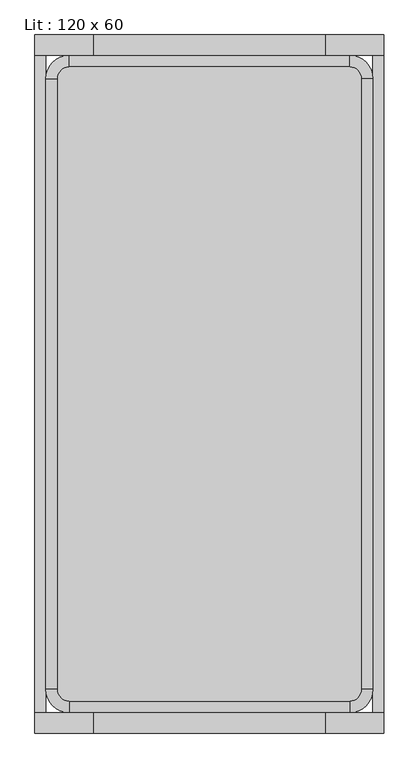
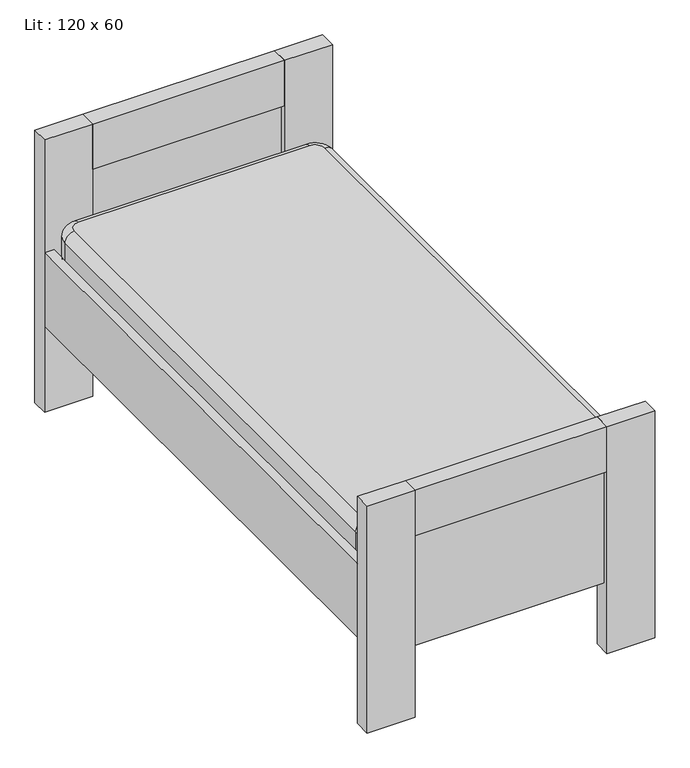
"""IFC4 building model written with IfcOpenShell, lengths in millimetres: furniture geometry, Lit : 120 x 60."""

from ifc_helpers import new_model, si_unit, point, frame, origin, place, context, project, spatial, polyline, circle_curve, ellipse_curve, trimmed, outline, extrude, faceted_brep, source, transform, mapped, element, save
from ifc_brep_helpers import plane_surface, cylinder_surface, revolved_surface, advanced_brep


def lit_120_x_60_0b7843ef(model_context):
    return source(origin(), model_context, "Body", "SolidModel", [
        advanced_brep(
        [(-261.0, -1125.0, 410.0), (-241.0, -1145.0, 410.0), (241.0, -1145.0, 410.0), (261.0, -1125.0, 410.0), (261.0, -75.0, 410.0), (241.0, -55.0, 410.0), (-241.0, -55.0, 410.0), (-261.0, -75.0, 410.0), (241.0, -35.0, 260.0), (281.0, -75.0, 260.0), (281.0, -1125.0, 260.0), (241.0, -1165.0, 260.0), (-241.0, -1165.0, 260.0), (-281.0, -1125.0, 260.0), (-281.0, -75.0, 260.0), (-241.0, -35.0, 260.0), (-241.0, -35.0, 390.0), (241.0, -35.0, 390.0), (-281.0, -75.0, 390.0000164), (-281.0, -1125.0, 390.0000168), (-241.0, -1165.0, 390.0000192), (241.0, -1165.0, 390.0), (281.0, -1125.0, 390.0000164), (281.0, -75.0, 390.0)],
        [
            (0, 1, circle_curve(frame((-241.0, -1125.0, 410.0), z_axis=(0.0, 0.0, 1.0), x_axis=(-1.0, 0.0, 0.0)), 20.0)),
            (1, 2),
            (2, 3, circle_curve(frame((241.0, -1125.0, 410.0), z_axis=(0.0, 0.0, 1.0), x_axis=(0.0, -1.0, 0.0)), 20.0)),
            (3, 4),
            (4, 5, circle_curve(frame((241.0, -75.0, 410.0), z_axis=(0.0, 0.0, 1.0), x_axis=(1.0, 0.0, 0.0)), 20.0)),
            (5, 6),
            (6, 7, circle_curve(frame((-241.0, -75.0, 410.0), z_axis=(0.0, 0.0, 1.0), x_axis=(0.0, 1.0, 0.0)), 20.0)),
            (7, 0),
            (8, 9, circle_curve(frame((241.0, -75.0, 260.0), z_axis=(0.0, 0.0, -1.0), x_axis=(0.0, -1.0, 0.0)), 40.0)),
            (9, 10),
            (10, 11, circle_curve(frame((241.0, -1125.0, 260.0), z_axis=(0.0, 0.0, -1.0), x_axis=(0.0, -1.0, 0.0)), 40.0)),
            (11, 12),
            (12, 13, circle_curve(frame((-241.0, -1125.0, 260.0), z_axis=(0.0, 0.0, -1.0), x_axis=(0.0, -1.0, 0.0)), 40.0)),
            (13, 14),
            (14, 15, circle_curve(frame((-241.0, -75.0, 260.0), z_axis=(0.0, 0.0, -1.0), x_axis=(0.0, -1.0, 0.0)), 40.0)),
            (15, 8),
            (15, 16),
            (16, 17),
            (17, 8),
            (14, 18),
            (18, 16, circle_curve(frame((-241.0, -75.0, 390.0), z_axis=(0.0, 0.0, -1.0), x_axis=(0.0, -1.0, 0.0)), 40.0)),
            (13, 19),
            (19, 18),
            (12, 20),
            (20, 19, circle_curve(frame((-241.0, -1125.0, 390.0), z_axis=(0.0, 0.0, -1.0), x_axis=(0.0, -1.0, 0.0)), 40.0)),
            (11, 21),
            (21, 20),
            (10, 22),
            (22, 21, circle_curve(frame((241.0, -1125.0, 390.0), z_axis=(0.0, 0.0, -1.0), x_axis=(0.0, -1.0, 0.0)), 40.0)),
            (9, 23),
            (23, 22),
            (17, 23, circle_curve(frame((241.0, -75.0, 390.0), z_axis=(0.0, 0.0, -1.0), x_axis=(0.0, -1.0, 0.0)), 40.0)),
            (20, 1, circle_curve(frame((-241.0, -1145.0, 390.0), z_axis=(-1.0, 0.0, 0.0), x_axis=(0.0, 1.0, 0.0)), 20.0)),
            (0, 19, circle_curve(frame((-261.0, -1125.0, 390.0), z_axis=(0.0, -1.0, 0.0), x_axis=(1.0, 0.0, 0.0)), 20.0)),
            (21, 2, circle_curve(frame((241.0, -1145.0, 390.0), z_axis=(-1.0, 0.0, 0.0), x_axis=(0.0, 1.0, 0.0)), 20.0)),
            (22, 3, circle_curve(frame((261.0, -1125.0, 390.0), z_axis=(0.0, -1.0, 0.0), x_axis=(-1.0, 0.0, 0.0)), 20.0)),
            (23, 4, circle_curve(frame((261.0, -75.0, 390.0), z_axis=(0.0, -1.0, 0.0), x_axis=(-1.0, 0.0, 0.0)), 20.0)),
            (17, 5, circle_curve(frame((241.0, -55.0, 390.0), z_axis=(1.0, 0.0, 0.0), x_axis=(0.0, -1.0, 0.0)), 20.0)),
            (16, 6, circle_curve(frame((-241.0, -55.0, 390.0), z_axis=(1.0, 0.0, 0.0), x_axis=(0.0, -1.0, 0.0)), 20.0)),
            (18, 7, circle_curve(frame((-261.0, -75.0, 390.0), z_axis=(0.0, 1.0, 0.0), x_axis=(1.0, 0.0, 0.0)), 20.0)),
        ],
        [
            plane_surface(frame((-241.0, -35.0, 410.0), z_axis=(0.0, 0.0, 1.0), x_axis=(-1.0, 0.0, 0.0))),
            plane_surface(frame((-241.0, -35.0, 260.0), z_axis=(0.0, 0.0, -1.0), x_axis=(1.0, 0.0, 0.0))),
            plane_surface(frame((241.0, -35.0, 410.0), z_axis=(0.0, 1.0, 0.0), x_axis=(0.0, 0.0, -1.0))),
            cylinder_surface(frame((-241.0, -75.0, 260.0), z_axis=(0.0, 0.0, 1.0), x_axis=(0.0, -1.0, 0.0)), 40.0),
            plane_surface(frame((-281.0, -75.0, 410.0), z_axis=(-1.0, 0.0, 0.0), x_axis=(0.0, 0.0, -1.0))),
            cylinder_surface(frame((-241.0, -1125.0, 260.0), z_axis=(0.0, 0.0, 1.0), x_axis=(0.0, -1.0, 0.0)), 40.0),
            plane_surface(frame((-241.0, -1165.0, 410.0), z_axis=(0.0, -1.0, 0.0), x_axis=(0.0, 0.0, -1.0))),
            cylinder_surface(frame((241.0, -1125.0, 260.0), z_axis=(0.0, 0.0, 1.0), x_axis=(0.0, -1.0, 0.0)), 40.0),
            plane_surface(frame((281.0, -1125.0, 410.0), z_axis=(1.0, 0.0, 0.0), x_axis=(0.0, 0.0, -1.0))),
            cylinder_surface(frame((241.0, -75.0, 260.0), z_axis=(0.0, 0.0, 1.0), x_axis=(0.0, -1.0, 0.0)), 40.0),
            revolved_surface(trimmed(ellipse_curve(frame((-261.0, -1125.0, 390.0), z_axis=(0.0, 1.0, 0.0), x_axis=(1.0, 0.0, 0.0)), 20.0, 20.0), [point((-281.0, -1125.0, 390.0))], [point((-261.0, -1125.0, 410.0))], True, "CARTESIAN"), (-241.0, -1125.0, 410.0), (0.0, 0.0, 1.0)),
            cylinder_surface(frame((-241.0, -1145.0, 390.0), z_axis=(1.0, 0.0, 0.0), x_axis=(0.0, 1.0, 0.0)), 20.0),
            revolved_surface(trimmed(ellipse_curve(frame((241.0, -1145.0, 390.0), z_axis=(-1.0, 0.0, 0.0), x_axis=(0.0, 1.0, 0.0)), 20.0, 20.0), [point((241.0, -1165.0, 390.0))], [point((241.0, -1145.0, 410.0))], True, "CARTESIAN"), (241.0, -1125.0, 410.0), (0.0, 0.0, 1.0)),
            cylinder_surface(frame((261.0, -1125.0, 390.0), z_axis=(0.0, 1.0, 0.0), x_axis=(-1.0, 0.0, 0.0)), 20.0),
            revolved_surface(trimmed(ellipse_curve(frame((261.0, -75.0, 390.0), z_axis=(0.0, -1.0, 0.0), x_axis=(-1.0, 0.0, 0.0)), 20.0, 20.0), [point((281.0, -75.0, 390.0))], [point((261.0, -75.0, 410.0))], True, "CARTESIAN"), (241.0, -75.0, 410.0), (0.0, 0.0, 1.0)),
            cylinder_surface(frame((241.0, -55.0, 390.0), z_axis=(-1.0, 0.0, 0.0), x_axis=(0.0, -1.0, 0.0)), 20.0),
            revolved_surface(trimmed(ellipse_curve(frame((-241.0, -55.0, 390.0), z_axis=(1.0, 0.0, 0.0), x_axis=(0.0, -1.0, 0.0)), 20.0, 20.0), [point((-241.0, -35.0, 390.0))], [point((-241.0, -55.0, 410.0))], True, "CARTESIAN"), (-241.0, -75.0, 410.0), (0.0, 0.0, 1.0)),
            cylinder_surface(frame((-261.0, -75.0, 390.0), z_axis=(0.0, -1.0, 0.0), x_axis=(1.0, 0.0, 0.0)), 20.0),
        ],
        [
            (0, [[1, 2, 3, 4, 5, 6, 7, 8]]),
            (1, [[9, 10, 11, 12, 13, 14, 15, 16]]),
            (2, [[-16, 17, 18, 19]]),
            (3, [[-15, 20, 21, -17]]),
            (4, [[-14, 22, 23, -20]]),
            (5, [[-13, 24, 25, -22]]),
            (6, [[-12, 26, 27, -24]]),
            (7, [[-11, 28, 29, -26]]),
            (8, [[-10, 30, 31, -28]]),
            (9, [[-9, -19, 32, -30]]),
            (10, [[33, -1, 34, -25]]),
            (11, [[-33, -27, 35, -2]]),
            (12, [[-35, -29, 36, -3]]),
            (13, [[-36, -31, 37, -4]]),
            (14, [[-37, -32, 38, -5]]),
            (15, [[-38, -18, 39, -6]]),
            (16, [[-39, -21, 40, -7]]),
            (17, [[-34, -8, -40, -23]]),
        ],
    ),
        faceted_brep([(-200.0, -35.0, 600.0), (-200.0, 0.0, 600.0), (-300.0, 0.0, 600.0), (-300.0, -35.0, 600.0), (-200.0, -35.0, 0.0), (-300.0, -35.0, 0.0), (-300.0, 0.0, 0.0), (-200.0, 0.0, 0.0), (-200.0, -35.0, 410.0), (-200.0, -35.0, 390.0)], [[[0, 1, 2, 3]], [[4, 5, 6, 7]], [[1, 0, 8, 9, 4, 7]], [[2, 1, 7, 6]], [[3, 2, 6, 5]], [[0, 3, 5, 4, 9, 8]]]),
        faceted_brep([(300.0, -35.0, 600.0), (300.0, 0.0, 600.0), (200.0, 0.0, 600.0), (200.0, -35.0, 600.0), (300.0, -35.0, 0.0), (200.0, -35.0, 0.0), (200.0, 0.0, 0.0), (300.0, 0.0, 0.0), (200.0, -35.0, 390.0), (200.0, -35.0, 410.0)], [[[0, 1, 2, 3]], [[4, 5, 6, 7]], [[1, 0, 4, 7]], [[2, 1, 7, 6]], [[3, 2, 6, 5, 8, 9]], [[0, 3, 9, 8, 5, 4]]]),
        faceted_brep([(-200.0, -1200.0, 500.0), (-200.0, -1165.0, 500.0), (-300.0, -1165.0, 500.0), (-300.0, -1200.0, 500.0), (-200.0, -1200.0, 0.0), (-300.0, -1200.0, 0.0), (-300.0, -1165.0, 0.0), (-200.0, -1165.0, 0.0), (-200.0, -1165.0, 390.0), (-200.0, -1165.0, 410.0)], [[[0, 1, 2, 3]], [[4, 5, 6, 7]], [[1, 0, 4, 7, 8, 9]], [[2, 1, 9, 8, 7, 6]], [[3, 2, 6, 5]], [[0, 3, 5, 4]]]),
        faceted_brep([(200.0, -1200.0, 500.0), (300.0, -1200.0, 500.0), (300.0, -1165.0, 500.0), (200.0, -1165.0, 500.0), (200.0, -1200.0, 0.0), (200.0, -1165.0, 0.0), (300.0, -1165.0, 0.0), (300.0, -1200.0, 0.0), (200.0, -1165.0, 390.0), (200.0, -1165.0, 410.0)], [[[0, 1, 2, 3]], [[4, 5, 6, 7]], [[1, 0, 4, 7]], [[2, 1, 7, 6]], [[3, 2, 6, 5, 8, 9]], [[0, 3, 9, 8, 5, 4]]]),
        extrude(outline(polyline([(300.0, -35.0), (300.0, -1165.0), (281.0, -1165.0), (281.0, -35.0), (300.0, -35.0)])), frame((0.0, 0.0, 190.0), z_axis=(0.0, 0.0, 1.0), x_axis=(1.0, 0.0, 0.0)), (0.0, 0.0, 1.0), 162.0),
        extrude(outline(polyline([(-281.0, -35.0), (-281.0, -1165.0), (-300.0, -1165.0), (-300.0, -35.0), (-281.0, -35.0)])), frame((0.0, 0.0, 190.0), z_axis=(0.0, 0.0, 1.0), x_axis=(1.0, 0.0, 0.0)), (0.0, 0.0, 1.0), 162.0),
        extrude(outline(polyline([(200.0, -35.0), (-200.0, -35.0), (-200.0, 0.0), (200.0, 0.0), (200.0, -35.0)])), frame((0.0, 0.0, 500.0), z_axis=(0.0, 0.0, 1.0), x_axis=(1.0, 0.0, 0.0)), (0.0, 0.0, 1.0), 100.0),
        extrude(outline(polyline([(-200.0, -1165.0), (200.0, -1165.0), (200.0, -1200.0), (-200.0, -1200.0), (-200.0, -1165.0)])), frame((0.0, 0.0, 400.0), z_axis=(0.0, 0.0, 1.0), x_axis=(1.0, 0.0, 0.0)), (0.0, 0.0, 1.0), 100.0),
        extrude(outline(polyline([(200.0, -25.0), (-200.0, -25.0), (-200.0, -10.0), (200.0, -10.0), (200.0, -25.0)])), frame((0.0, 0.0, 150.0), z_axis=(0.0, 0.0, 1.0), x_axis=(1.0, 0.0, 0.0)), (0.0, 0.0, 1.0), 350.0),
        extrude(outline(polyline([(-200.0, -1175.0), (200.0, -1175.0), (200.0, -1190.0), (-200.0, -1190.0), (-200.0, -1175.0)])), frame((0.0, 0.0, 150.0), z_axis=(0.0, 0.0, 1.0), x_axis=(1.0, 0.0, 0.0)), (0.0, 0.0, 1.0), 250.0),
    ])


if __name__ == "__main__":
    model = new_model("IFC4")
    model_context = context("Model", 3, world=origin())
    ifc_project = project(units=[si_unit("LENGTHUNIT", "METRE", prefix="MILLI")], contexts=[model_context])
    site = spatial("IfcSite", under=ifc_project)
    building = spatial("IfcBuilding", under=site)
    placement = place(None, origin())
    lit_120_x_60_shape = lit_120_x_60_0b7843ef(model_context)
    element("IfcFurniture", 1, ObjectType="Lit : 120 x 60", at=placement, inside=building, context=model_context, shape_type="MappedRepresentation", body=[
        mapped(lit_120_x_60_shape, transform((0.0, 0.0, 0.0), x_axis=(1.0, 0.0, 0.0), y_axis=(0.0, 1.0, 0.0), z_axis=(0.0, 0.0, 1.0))),
    ])
    save(model, "model.ifc")
